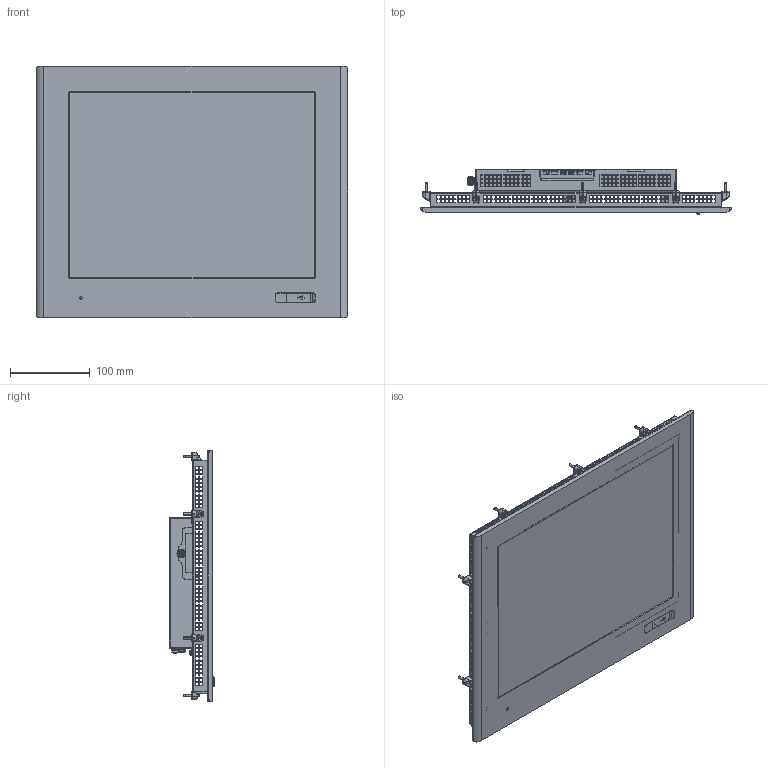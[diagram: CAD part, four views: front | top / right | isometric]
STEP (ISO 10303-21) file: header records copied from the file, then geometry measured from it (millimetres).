
FILE_DESCRIPTION((''),'2;1');
FILE_NAME('C6E22-Panel_150_RES_SL','2017-03-07T',('manpal'),(''),'PRO/ENGINEER BY PARAMETRIC TECHNOLOGY CORPORATION, 2013410','PRO/ENGINEER BY PARAMETRIC TECHNOLOGY CORPORATION, 2013410','');
FILE_SCHEMA(('AUTOMOTIVE_DESIGN { 1 0 10303 214 1 1 1 1 }'));
Products named in the file (3): C6E22-Panel_150_RES_SL_
Assembly tree (2 placements, depth 2):
  C6E22-Panel_150_RES_SL_
    C6E22-Panel_150_RES_SL_
    C6E22-Panel_150_RES_SL_
Bounding box: 390 x 57.04 x 315 mm (x, y, z)
Surface area: 721785.1 mm2 (no closed solid volume)
Topology: 0 solids, 371 shells, 6240 faces, 23602 edges, 17557 vertices
Faces by surface type: plane 5119, cylinder 669, cone 238, bspline 134, torus 49, sphere 27, extrusion 4
Entity records: 276442 total; most frequent: CARTESIAN_POINT 60289, DIRECTION 37689, ORIENTED_EDGE 36933, EDGE_CURVE 23560, VECTOR 19375, LINE 19371, VERTEX_POINT 17557, AXIS2_PLACEMENT_3D 9157
